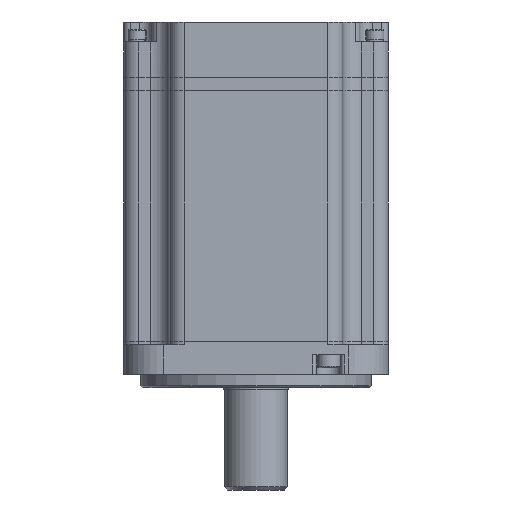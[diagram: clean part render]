
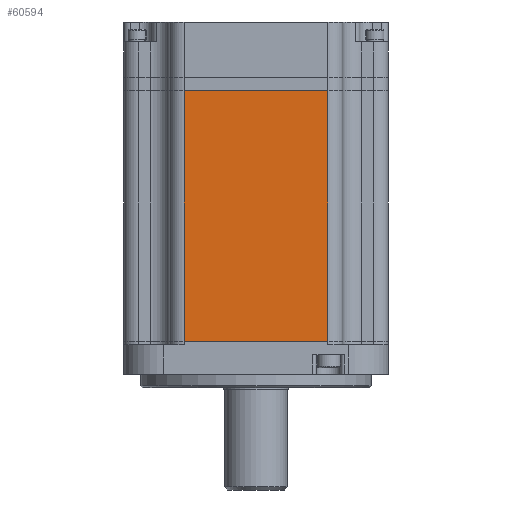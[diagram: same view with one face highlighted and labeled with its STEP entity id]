
A CAD part, front view. The second image highlights one B-rep face of the part: STEP entity #60594.
In plain terms, the highlighted planar face has unit normal (0, -1, 0).
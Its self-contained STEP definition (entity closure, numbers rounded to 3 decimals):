
#2604 = DIRECTION ( 'NONE',  ( 0., 1., 0. ) ) ;
#3076 = PLANE ( 'NONE',  #48870 ) ;
#3945 = VERTEX_POINT ( 'NONE', #53534 ) ;
#7229 = FACE_OUTER_BOUND ( 'NONE', #47776, .T. ) ;
#10712 = LINE ( 'NONE', #51285, #11546 ) ;
#11546 = VECTOR ( 'NONE', #29405, 1000. ) ;
#11820 = VERTEX_POINT ( 'NONE', #33084 ) ;
#19221 = DIRECTION ( 'NONE',  ( 0., 0., 1. ) ) ;
#20017 = VERTEX_POINT ( 'NONE', #61685 ) ;
#20233 = CARTESIAN_POINT ( 'NONE',  ( -21.75, -40., 120.9 ) ) ;
#22042 = VECTOR ( 'NONE', #45037, 1000. ) ;
#29262 = LINE ( 'NONE', #63938, #49699 ) ;
#29405 = DIRECTION ( 'NONE',  ( 0., 0., -1. ) ) ;
#29728 = CARTESIAN_POINT ( 'NONE',  ( -26.25, -40., 120.9 ) ) ;
#33084 = CARTESIAN_POINT ( 'NONE',  ( 21.75, -40., 45. ) ) ;
#36646 = LINE ( 'NONE', #41579, #61295 ) ;
#39579 = CARTESIAN_POINT ( 'NONE',  ( -26.25, -40., 45. ) ) ;
#41579 = CARTESIAN_POINT ( 'NONE',  ( -26.25, -40., 120.9 ) ) ;
#41619 = EDGE_CURVE ( 'NONE', #65129, #3945, #10712, .T. ) ;
#45037 = DIRECTION ( 'NONE',  ( 1., 0., 0. ) ) ;
#47776 = EDGE_LOOP ( 'NONE', ( #51875, #67334, #54585, #60143 ) ) ;
#48870 = AXIS2_PLACEMENT_3D ( 'NONE', #29728, #2604, #19221 ) ;
#49699 = VECTOR ( 'NONE', #69194, 1000. ) ;
#51285 = CARTESIAN_POINT ( 'NONE',  ( -21.75, -40., 120.9 ) ) ;
#51875 = ORIENTED_EDGE ( 'NONE', *, *, #55441, .F. ) ;
#51991 = EDGE_CURVE ( 'NONE', #11820, #20017, #29262, .T. ) ;
#53534 = CARTESIAN_POINT ( 'NONE',  ( -21.75, -40., 45. ) ) ;
#54585 = ORIENTED_EDGE ( 'NONE', *, *, #56285, .T. ) ;
#55441 = EDGE_CURVE ( 'NONE', #65129, #20017, #36646, .T. ) ;
#56285 = EDGE_CURVE ( 'NONE', #3945, #11820, #56950, .T. ) ;
#56950 = LINE ( 'NONE', #39579, #22042 ) ;
#60143 = ORIENTED_EDGE ( 'NONE', *, *, #51991, .T. ) ;
#60594 = ADVANCED_FACE ( 'NONE', ( #7229 ), #3076, .F. ) ;
#61295 = VECTOR ( 'NONE', #62760, 1000. ) ;
#61685 = CARTESIAN_POINT ( 'NONE',  ( 21.75, -40., 120.9 ) ) ;
#62760 = DIRECTION ( 'NONE',  ( 1., 0., 0. ) ) ;
#63938 = CARTESIAN_POINT ( 'NONE',  ( 21.75, -40., 120.9 ) ) ;
#65129 = VERTEX_POINT ( 'NONE', #20233 ) ;
#67334 = ORIENTED_EDGE ( 'NONE', *, *, #41619, .T. ) ;
#69194 = DIRECTION ( 'NONE',  ( 0., 0., 1. ) ) ;
